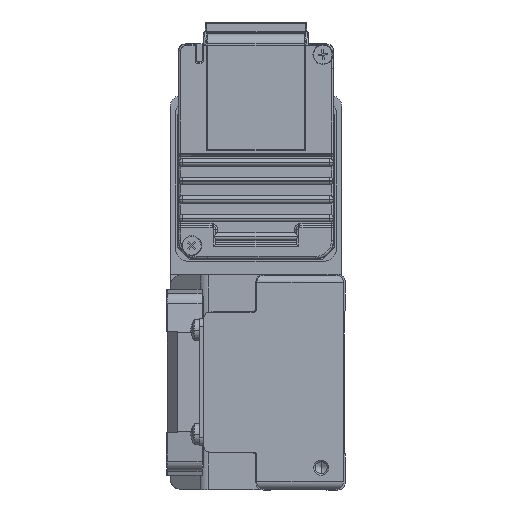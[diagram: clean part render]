
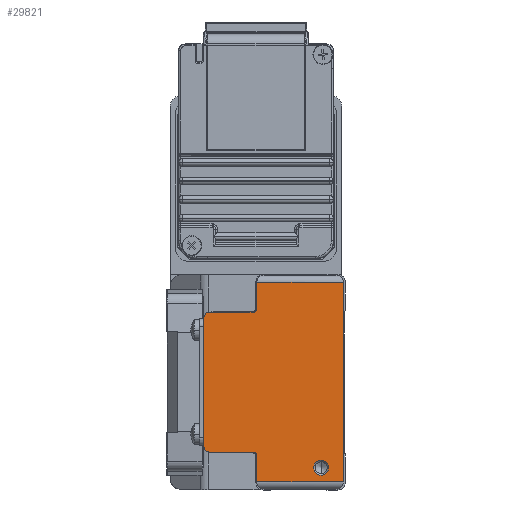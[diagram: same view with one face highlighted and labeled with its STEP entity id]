
A CAD part, left-side view. The second image highlights one B-rep face of the part: STEP entity #29821.
In plain terms, the highlighted planar face has unit normal (-1, 0, 0) as drawn and (0, 0, 1) by its records, which use the part's own axes.
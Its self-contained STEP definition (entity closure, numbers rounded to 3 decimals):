
#354 = CARTESIAN_POINT ( 'NONE',  ( -26.8, 24., 420. ) ) ;
#483 = DIRECTION ( 'NONE',  ( -1., 0., 0. ) ) ;
#619 = LINE ( 'NONE', #7211, #26160 ) ;
#655 = CARTESIAN_POINT ( 'NONE',  ( -25., 6.5, 420. ) ) ;
#1238 = CARTESIAN_POINT ( 'NONE',  ( -26.8, 21.8, 420. ) ) ;
#1295 = CARTESIAN_POINT ( 'NONE',  ( 26.8, 23.8, 420. ) ) ;
#1596 = ORIENTED_EDGE ( 'NONE', *, *, #33625, .T. ) ;
#1623 = ORIENTED_EDGE ( 'NONE', *, *, #25422, .F. ) ;
#1740 = CARTESIAN_POINT ( 'NONE',  ( 18.8, 24.8, 420. ) ) ;
#2590 = VECTOR ( 'NONE', #13068, 1000. ) ;
#3037 = DIRECTION ( 'NONE',  ( -1., 0., 0. ) ) ;
#3259 = CARTESIAN_POINT ( 'NONE',  ( -17.3, 36.5, 420. ) ) ;
#3462 = ORIENTED_EDGE ( 'NONE', *, *, #7948, .T. ) ;
#3930 = EDGE_CURVE ( 'NONE', #18841, #36252, #42072, .T. ) ;
#4649 = DIRECTION ( 'NONE',  ( 0., 0., 1. ) ) ;
#5996 = ORIENTED_EDGE ( 'NONE', *, *, #42455, .T. ) ;
#6198 = LINE ( 'NONE', #33767, #2590 ) ;
#6259 = DIRECTION ( 'NONE',  ( 1., 0., 0. ) ) ;
#6626 = CIRCLE ( 'NONE', #28660, 1.5 ) ;
#6655 = DIRECTION ( 'NONE',  ( 0., 0., 1. ) ) ;
#7050 = CIRCLE ( 'NONE', #24579, 1.5 ) ;
#7154 = CARTESIAN_POINT ( 'NONE',  ( -19.8, 24.8, 420. ) ) ;
#7211 = CARTESIAN_POINT ( 'NONE',  ( 26.8, 24., 420. ) ) ;
#7863 = DIRECTION ( 'NONE',  ( 1., 0., 0. ) ) ;
#7948 = EDGE_CURVE ( 'NONE', #34901, #18803, #31296, .T. ) ;
#10796 = EDGE_CURVE ( 'NONE', #16403, #35601, #20088, .T. ) ;
#11280 = VECTOR ( 'NONE', #23927, 1000. ) ;
#11785 = ORIENTED_EDGE ( 'NONE', *, *, #3930, .T. ) ;
#11888 = CARTESIAN_POINT ( 'NONE',  ( -26.8, 0.5, 420. ) ) ;
#12181 = CARTESIAN_POINT ( 'NONE',  ( -18.8, 36.5, 420. ) ) ;
#12258 = LINE ( 'NONE', #1295, #37454 ) ;
#13068 = DIRECTION ( 'NONE',  ( -1., 0., 0. ) ) ;
#13307 = ORIENTED_EDGE ( 'NONE', *, *, #32734, .T. ) ;
#13417 = DIRECTION ( 'NONE',  ( -1., 0., 0. ) ) ;
#14540 = DIRECTION ( 'NONE',  ( 0., -1., 0. ) ) ;
#14727 = ORIENTED_EDGE ( 'NONE', *, *, #10796, .F. ) ;
#15192 = ORIENTED_EDGE ( 'NONE', *, *, #19986, .T. ) ;
#15214 = DIRECTION ( 'NONE',  ( -1., 0., 0. ) ) ;
#16403 = VERTEX_POINT ( 'NONE', #1740 ) ;
#16473 = EDGE_CURVE ( 'NONE', #29047, #35601, #12258, .T. ) ;
#17017 = DIRECTION ( 'NONE',  ( 1., 0., 0. ) ) ;
#18803 = VERTEX_POINT ( 'NONE', #40102 ) ;
#18841 = VERTEX_POINT ( 'NONE', #33461 ) ;
#19235 = VECTOR ( 'NONE', #30951, 1000. ) ;
#19986 = EDGE_CURVE ( 'NONE', #36252, #34220, #41840, .T. ) ;
#20088 = CIRCLE ( 'NONE', #28924, 1. ) ;
#20097 = ORIENTED_EDGE ( 'NONE', *, *, #28935, .T. ) ;
#20190 = VECTOR ( 'NONE', #3037, 1000. ) ;
#20277 = CARTESIAN_POINT ( 'NONE',  ( -23., 6.5, 420. ) ) ;
#20603 = DIRECTION ( 'NONE',  ( 1., 0., 0. ) ) ;
#21237 = EDGE_CURVE ( 'NONE', #16403, #26283, #43375, .T. ) ;
#21915 = CARTESIAN_POINT ( 'NONE',  ( -23., 6.5, 420. ) ) ;
#23203 = CARTESIAN_POINT ( 'NONE',  ( 17.3, 36.5, 420. ) ) ;
#23275 = EDGE_LOOP ( 'NONE', ( #13307, #36921, #42469, #11785, #15192, #1623, #40411, #14727, #35648, #44002, #1596, #5996 ) ) ;
#23927 = DIRECTION ( 'NONE',  ( 1., 0., 0. ) ) ;
#23951 = EDGE_LOOP ( 'NONE', ( #3462, #20097 ) ) ;
#24082 = LINE ( 'NONE', #40676, #20190 ) ;
#24579 = AXIS2_PLACEMENT_3D ( 'NONE', #3259, #6655, #20603 ) ;
#24813 = FACE_BOUND ( 'NONE', #23951, .T. ) ;
#24907 = VERTEX_POINT ( 'NONE', #12181 ) ;
#24926 = AXIS2_PLACEMENT_3D ( 'NONE', #7154, #34297, #17017 ) ;
#25422 = EDGE_CURVE ( 'NONE', #29047, #34220, #619, .T. ) ;
#25574 = CARTESIAN_POINT ( 'NONE',  ( -19.8, 23.8, 420. ) ) ;
#26160 = VECTOR ( 'NONE', #14540, 1000. ) ;
#26283 = VERTEX_POINT ( 'NONE', #38980 ) ;
#26442 = DIRECTION ( 'NONE',  ( 0., 0., 1. ) ) ;
#27244 = VERTEX_POINT ( 'NONE', #37547 ) ;
#27673 = VERTEX_POINT ( 'NONE', #39462 ) ;
#27701 = DIRECTION ( 'NONE',  ( 1., 0., 0. ) ) ;
#27826 = CARTESIAN_POINT ( 'NONE',  ( 19.8, 23.8, 420. ) ) ;
#28369 = EDGE_CURVE ( 'NONE', #26283, #27673, #6626, .T. ) ;
#28660 = AXIS2_PLACEMENT_3D ( 'NONE', #23203, #26442, #6259 ) ;
#28924 = AXIS2_PLACEMENT_3D ( 'NONE', #41485, #34597, #27701 ) ;
#28935 = EDGE_CURVE ( 'NONE', #18803, #34901, #44890, .T. ) ;
#29047 = VERTEX_POINT ( 'NONE', #42541 ) ;
#29811 = VERTEX_POINT ( 'NONE', #32668 ) ;
#29821 = ADVANCED_FACE ( 'NONE', ( #24813, #39554 ), #38666, .T. ) ;
#30951 = DIRECTION ( 'NONE',  ( 0., -1., 0. ) ) ;
#31296 = CIRCLE ( 'NONE', #37173, 2. ) ;
#32484 = AXIS2_PLACEMENT_3D ( 'NONE', #20277, #44842, #13417 ) ;
#32668 = CARTESIAN_POINT ( 'NONE',  ( -18.8, 24.8, 420. ) ) ;
#32734 = EDGE_CURVE ( 'NONE', #24907, #29811, #40627, .T. ) ;
#33461 = CARTESIAN_POINT ( 'NONE',  ( -26.8, 23.8, 420. ) ) ;
#33625 = EDGE_CURVE ( 'NONE', #27673, #27244, #6198, .T. ) ;
#33767 = CARTESIAN_POINT ( 'NONE',  ( 17.3, 38., 420. ) ) ;
#34220 = VERTEX_POINT ( 'NONE', #37320 ) ;
#34297 = DIRECTION ( 'NONE',  ( 0., 0., 1. ) ) ;
#34597 = DIRECTION ( 'NONE',  ( 0., 0., 1. ) ) ;
#34901 = VERTEX_POINT ( 'NONE', #655 ) ;
#34918 = VERTEX_POINT ( 'NONE', #25574 ) ;
#35601 = VERTEX_POINT ( 'NONE', #27826 ) ;
#35648 = ORIENTED_EDGE ( 'NONE', *, *, #21237, .T. ) ;
#35677 = VECTOR ( 'NONE', #44048, 1000. ) ;
#35850 = VECTOR ( 'NONE', #41619, 1000. ) ;
#36005 = DIRECTION ( 'NONE',  ( 0., 0., -1. ) ) ;
#36252 = VERTEX_POINT ( 'NONE', #11888 ) ;
#36740 = CARTESIAN_POINT ( 'NONE',  ( 18.8, 24.8, 420. ) ) ;
#36921 = ORIENTED_EDGE ( 'NONE', *, *, #38647, .F. ) ;
#37173 = AXIS2_PLACEMENT_3D ( 'NONE', #21915, #36005, #483 ) ;
#37320 = CARTESIAN_POINT ( 'NONE',  ( 26.8, 0.5, 420. ) ) ;
#37454 = VECTOR ( 'NONE', #15214, 1000. ) ;
#37547 = CARTESIAN_POINT ( 'NONE',  ( -17.3, 38., 420. ) ) ;
#38193 = CIRCLE ( 'NONE', #24926, 1. ) ;
#38647 = EDGE_CURVE ( 'NONE', #34918, #29811, #38193, .T. ) ;
#38666 = PLANE ( 'NONE',  #41047 ) ;
#38980 = CARTESIAN_POINT ( 'NONE',  ( 18.8, 36.5, 420. ) ) ;
#39462 = CARTESIAN_POINT ( 'NONE',  ( 17.3, 38., 420. ) ) ;
#39554 = FACE_OUTER_BOUND ( 'NONE', #23275, .T. ) ;
#40102 = CARTESIAN_POINT ( 'NONE',  ( -21., 6.5, 420. ) ) ;
#40411 = ORIENTED_EDGE ( 'NONE', *, *, #16473, .T. ) ;
#40627 = LINE ( 'NONE', #44926, #19235 ) ;
#40676 = CARTESIAN_POINT ( 'NONE',  ( -19.8, 23.8, 420. ) ) ;
#41047 = AXIS2_PLACEMENT_3D ( 'NONE', #1238, #4649, #7863 ) ;
#41485 = CARTESIAN_POINT ( 'NONE',  ( 19.8, 24.8, 420. ) ) ;
#41619 = DIRECTION ( 'NONE',  ( 0., -1., 0. ) ) ;
#41840 = LINE ( 'NONE', #44609, #11280 ) ;
#42072 = LINE ( 'NONE', #354, #35850 ) ;
#42402 = EDGE_CURVE ( 'NONE', #34918, #18841, #24082, .T. ) ;
#42455 = EDGE_CURVE ( 'NONE', #27244, #24907, #7050, .T. ) ;
#42469 = ORIENTED_EDGE ( 'NONE', *, *, #42402, .T. ) ;
#42541 = CARTESIAN_POINT ( 'NONE',  ( 26.8, 23.8, 420. ) ) ;
#43375 = LINE ( 'NONE', #36740, #35677 ) ;
#44002 = ORIENTED_EDGE ( 'NONE', *, *, #28369, .T. ) ;
#44048 = DIRECTION ( 'NONE',  ( 0., 1., 0. ) ) ;
#44609 = CARTESIAN_POINT ( 'NONE',  ( -26.8, 0.5, 420. ) ) ;
#44842 = DIRECTION ( 'NONE',  ( 0., 0., -1. ) ) ;
#44890 = CIRCLE ( 'NONE', #32484, 2. ) ;
#44926 = CARTESIAN_POINT ( 'NONE',  ( -18.8, 36.5, 420. ) ) ;
